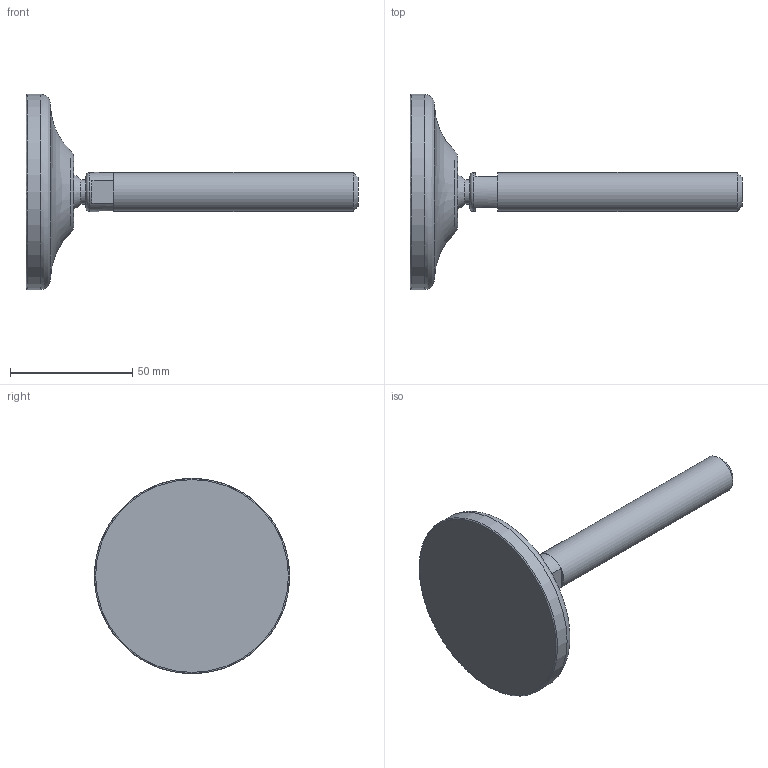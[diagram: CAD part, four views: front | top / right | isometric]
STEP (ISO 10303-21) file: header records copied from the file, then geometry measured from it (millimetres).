
FILE_DESCRIPTION(('STEP AP203'),'2;1');
FILE_NAME('10518.stp','2014-10-27T10:57:35',(''),(''),'2008.1.107','THINKDESIGN','');
FILE_SCHEMA(('CONFIG_CONTROL_DESIGN'));
Length unit declared in the file: millimetre
Bounding box: 136 x 80 x 80 mm (x, y, z)
Volume: 87061.8 mm3; surface area: 19327.5 mm2
Topology: 5 solids, 5 shells, 25 faces, 54 edges, 39 vertices
Faces by surface type: plane 14, bspline 7, cylinder 4
Full cylindrical faces by diameter (mm): 10 x1, 16 x2, 80 x1
Entity records: 1303 total; most frequent: CARTESIAN_POINT 641, DIRECTION 131, ORIENTED_EDGE 108, AXIS2_PLACEMENT_3D 59, EDGE_CURVE 54, CIRCLE 41, VERTEX_POINT 39, EDGE_LOOP 25
